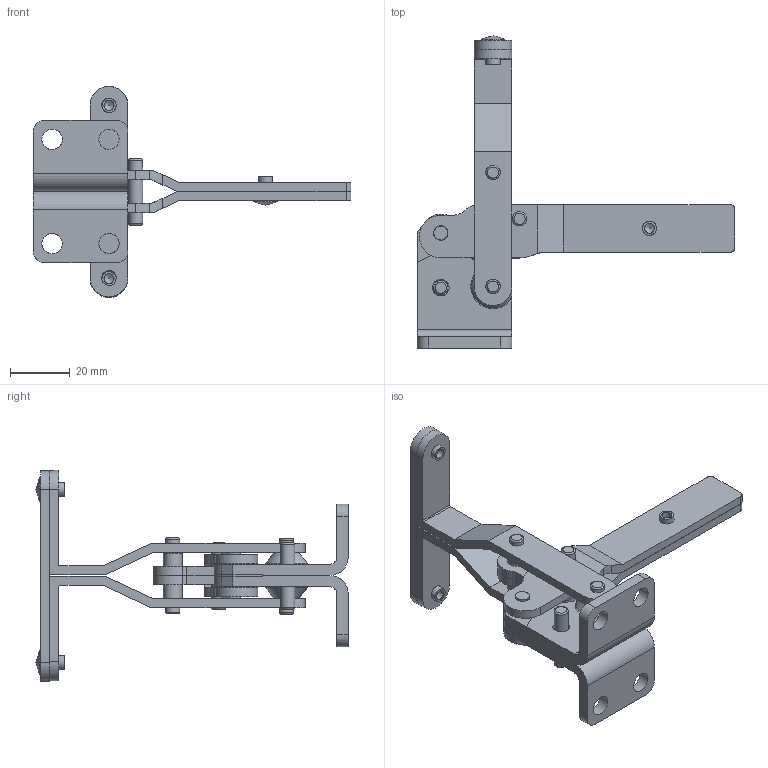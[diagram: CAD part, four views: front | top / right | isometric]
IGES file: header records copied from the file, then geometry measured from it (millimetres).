
Global section: file name: TC-200; native system: Autodesk RealDWG; preprocessor: Autodesk Translation Framework DWG producer (atf_dwg_producer); author: rtaylor; organization: unknown; date: 20150915.163712; units: inch
Bounding box: 106.35 x 104.5 x 70.62 mm (x, y, z)
Volume: 36937.9 mm3; surface area: 31162 mm2
Topology: 18 solids, 18 shells, 269 faces, 683 edges, 461 vertices
Faces by surface type: bspline 269
